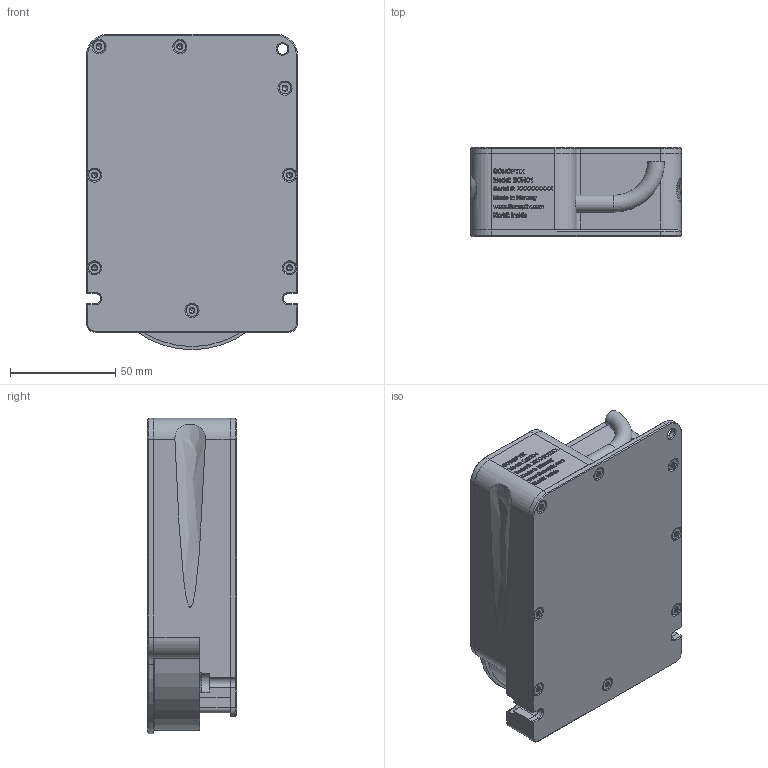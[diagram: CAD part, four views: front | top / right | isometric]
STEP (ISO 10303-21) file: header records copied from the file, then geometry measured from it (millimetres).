
FILE_DESCRIPTION (( 'STEP AP214' ), '1' );
FILE_NAME ('24281_Tetra_FL10_Ext_Faces_20230523.STEP', '2023-05-23T11:35:13', ( '' ), ( '' ), 'SwSTEP 2.0', 'SolidWorks 2022', '' );
FILE_SCHEMA (( 'AUTOMOTIVE_DESIGN' ));
Length unit declared in the file: inch
Products named in the file (1): 24281_Tetra_FL10_Ext_Faces_20230523
Bounding box: 100 x 42.3 x 149.72 mm (x, y, z)
Surface area: 64458.9 mm2 (no closed solid volume)
Topology: 0 solids, 26 shells, 1098 faces, 4754 edges, 3445 vertices
Faces by surface type: plane 427, cylinder 263, bspline 223, cone 181, torus 4
Entity records: 80770 total; most frequent: CARTESIAN_POINT 31692, ORIENTED_EDGE 7503, DIRECTION 5605, EDGE_CURVE 4722, VERTEX_POINT 3445, LINE 2403, VECTOR 2403, AXIS2_PLACEMENT_3D 1601
